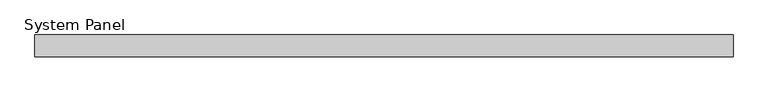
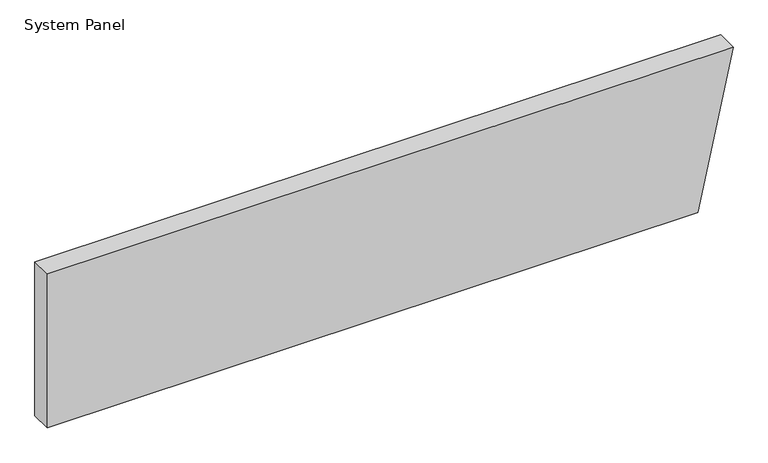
"""IFC4 building model written with IfcOpenShell, lengths in millimetres: plate geometry, System Panel : Inspire 50mm Horizontal - Plain RHEA-PIR."""

from ifc_helpers import new_model, si_unit, frame, origin, place, context, project, spatial, polyline, outline, extrude, source, transform, mapped, element, save


def system_panel_0d8661cb(model_context):
    return source(origin(), model_context, "Body", "SweptSolid", [
        extrude(outline(polyline([(0.0, -800.0), (0.0, 717.3970701), (379.9704237, 800.0), (379.9704237, -800.0), (0.0, -800.0)])), frame((0.0, -50.0, 0.0), z_axis=(0.0, 1.0, 0.0), x_axis=(0.0, 0.0, 1.0)), (0.0, 0.0, 1.0), 50.0),
    ])


if __name__ == "__main__":
    model = new_model("IFC4")
    model_context = context("Model", 3, world=origin())
    ifc_project = project(units=[si_unit("LENGTHUNIT", "METRE", prefix="MILLI")], contexts=[model_context])
    site = spatial("IfcSite", under=ifc_project)
    building = spatial("IfcBuilding", under=site)
    placement = place(None, origin())
    system_panel_shape = system_panel_0d8661cb(model_context)
    element("IfcPlate", 1, ObjectType="System Panel : Inspire 50mm Horizontal - Plain RHEA-PIR", at=placement, inside=building, context=model_context, shape_type="MappedRepresentation", body=[
        mapped(system_panel_shape, transform((0.0, 0.0, 0.0), x_axis=(1.0, 0.0, 0.0), y_axis=(0.0, 1.0, 0.0), z_axis=(0.0, 0.0, 1.0))),
    ])
    save(model, "model.ifc")
